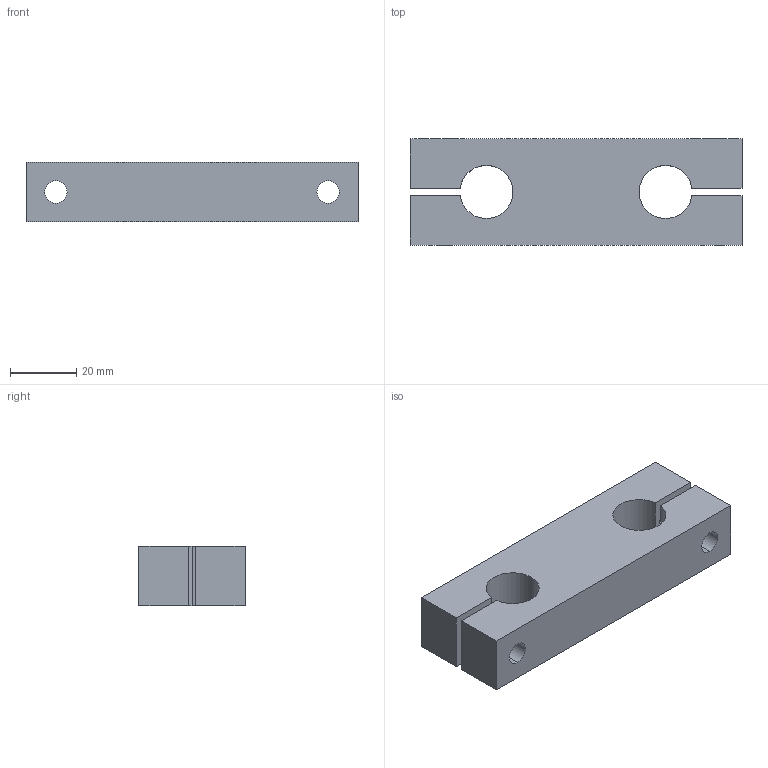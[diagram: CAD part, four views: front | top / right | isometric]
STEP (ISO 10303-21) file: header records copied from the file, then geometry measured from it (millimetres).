
FILE_DESCRIPTION (( 'STEP AP214' ), '1' );
FILE_NAME ('KTB-16.step', '2020-03-04T13:38:30', ( '' ), ( '' ), 'SwSTEP 2.0', 'SolidWorks 2019', '' );
FILE_SCHEMA (( 'AUTOMOTIVE_DESIGN' ));
Length unit declared in the file: millimetre
Products named in the file (1): KTB-16
Bounding box: 100 x 32 x 18 mm (x, y, z)
Volume: 43773.3 mm3; surface area: 14466.9 mm2
Topology: 1 solids, 1 shells, 41 faces, 101 edges, 65 vertices
Faces by surface type: cylinder 21, plane 16, cone 4
Entity records: 1307 total; most frequent: DIRECTION 227, CARTESIAN_POINT 206, ORIENTED_EDGE 198, EDGE_CURVE 99, AXIS2_PLACEMENT_3D 86, VERTEX_POINT 65, VECTOR 55, LINE 55
